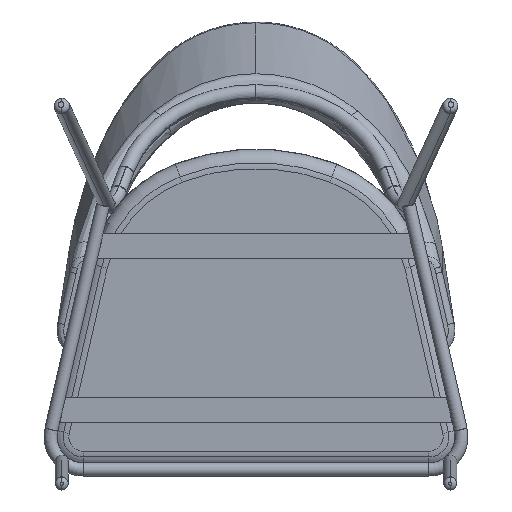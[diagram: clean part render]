
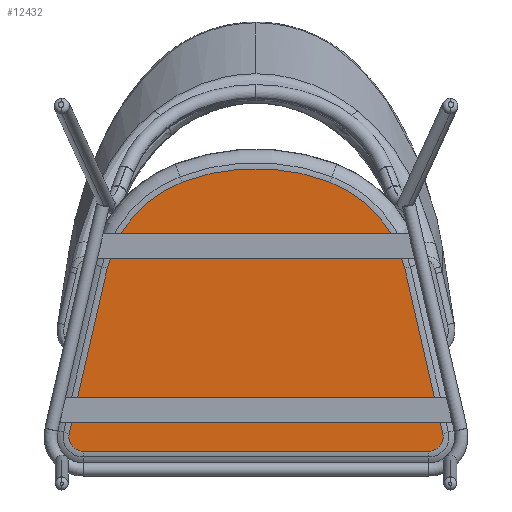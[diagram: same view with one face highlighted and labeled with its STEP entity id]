
A CAD part, front view. The second image highlights one B-rep face of the part: STEP entity #12432.
In plain terms, the highlighted planar face has unit normal (0, -0.999, -0.052).
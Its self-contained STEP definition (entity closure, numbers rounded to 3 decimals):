
#155 = VERTEX_POINT ( 'NONE', #10109 ) ;
#210 = ORIENTED_EDGE ( 'NONE', *, *, #17672, .T. ) ;
#244 = LINE ( 'NONE', #1664, #7227 ) ;
#280 = EDGE_LOOP ( 'NONE', ( #5367, #10526, #1772, #10880, #210, #4541, #10856, #11130 ) ) ;
#885 = CIRCLE ( 'NONE', #8196, 17.639 ) ;
#943 = CARTESIAN_POINT ( 'NONE',  ( 210.568, 408.83, -189. ) ) ;
#1664 = CARTESIAN_POINT ( 'NONE',  ( 227.76, 407.7, -167.441 ) ) ;
#1772 = ORIENTED_EDGE ( 'NONE', *, *, #16104, .T. ) ;
#2071 = DIRECTION ( 'NONE',  ( 0., -0.052, 0.999 ) ) ;
#2214 = CARTESIAN_POINT ( 'NONE',  ( -181.315, 397.117, 34.488 ) ) ;
#2665 = EDGE_CURVE ( 'NONE', #11245, #18599, #4494, .T. ) ;
#2813 = DIRECTION ( 'NONE',  ( 0., -0.999, -0.052 ) ) ;
#2814 = DIRECTION ( 'NONE',  ( 0., -0.052, 0.999 ) ) ;
#2991 = DIRECTION ( 'NONE',  ( 0., -0.999, -0.052 ) ) ;
#3045 = DIRECTION ( 'NONE',  ( 0., -0.999, -0.052 ) ) ;
#3296 = VECTOR ( 'NONE', #7452, 1000. ) ;
#3628 = VECTOR ( 'NONE', #5470, 1000. ) ;
#4083 = CARTESIAN_POINT ( 'NONE',  ( 0., 403.981, -96.488 ) ) ;
#4125 = DIRECTION ( 'NONE',  ( 0., -0.052, 0.999 ) ) ;
#4462 = VERTEX_POINT ( 'NONE', #17905 ) ;
#4494 = CIRCLE ( 'NONE', #17868, 147.639 ) ;
#4509 = AXIS2_PLACEMENT_3D ( 'NONE', #9160, #18108, #16688 ) ;
#4541 = ORIENTED_EDGE ( 'NONE', *, *, #18158, .T. ) ;
#4611 = CARTESIAN_POINT ( 'NONE',  ( -206.655, 402.891, -75.684 ) ) ;
#5097 = CARTESIAN_POINT ( 'NONE',  ( 210.568, 407.907, -171.385 ) ) ;
#5367 = ORIENTED_EDGE ( 'NONE', *, *, #9810, .T. ) ;
#5470 = DIRECTION ( 'NONE',  ( 1., 0., 0. ) ) ;
#6019 = CIRCLE ( 'NONE', #13337, 252.639 ) ;
#6485 = FACE_OUTER_BOUND ( 'NONE', #280, .T. ) ;
#6954 = CIRCLE ( 'NONE', #8161, 147.639 ) ;
#7033 = CARTESIAN_POINT ( 'NONE',  ( -210.568, 407.907, -171.385 ) ) ;
#7227 = VECTOR ( 'NONE', #10492, 1000. ) ;
#7452 = DIRECTION ( 'NONE',  ( -0.224, 0.051, -0.973 ) ) ;
#8161 = AXIS2_PLACEMENT_3D ( 'NONE', #18690, #2991, #2814 ) ;
#8196 = AXIS2_PLACEMENT_3D ( 'NONE', #5097, #12058, #2071 ) ;
#9160 = CARTESIAN_POINT ( 'NONE',  ( 210.568, 407.907, -171.385 ) ) ;
#9810 = EDGE_CURVE ( 'NONE', #11014, #4462, #16655, .T. ) ;
#10109 = CARTESIAN_POINT ( 'NONE',  ( 181.315, 397.117, 34.488 ) ) ;
#10492 = DIRECTION ( 'NONE',  ( -0.224, -0.051, 0.973 ) ) ;
#10526 = ORIENTED_EDGE ( 'NONE', *, *, #13593, .T. ) ;
#10856 = ORIENTED_EDGE ( 'NONE', *, *, #2665, .T. ) ;
#10880 = ORIENTED_EDGE ( 'NONE', *, *, #12085, .T. ) ;
#11014 = VERTEX_POINT ( 'NONE', #15887 ) ;
#11130 = ORIENTED_EDGE ( 'NONE', *, *, #16731, .T. ) ;
#11245 = VERTEX_POINT ( 'NONE', #12754 ) ;
#12058 = DIRECTION ( 'NONE',  ( 0., -0.999, -0.052 ) ) ;
#12085 = EDGE_CURVE ( 'NONE', #12153, #155, #244, .T. ) ;
#12153 = VERTEX_POINT ( 'NONE', #12504 ) ;
#12311 = PLANE ( 'NONE',  #4509 ) ;
#12432 = ADVANCED_FACE ( 'NONE', ( #6485 ), #12311, .F. ) ;
#12504 = CARTESIAN_POINT ( 'NONE',  ( 227.76, 407.7, -167.441 ) ) ;
#12754 = CARTESIAN_POINT ( 'NONE',  ( -90.043, 391.628, 139.237 ) ) ;
#12860 = DIRECTION ( 'NONE',  ( 0., -0.999, -0.052 ) ) ;
#12993 = LINE ( 'NONE', #4611, #3296 ) ;
#13317 = VERTEX_POINT ( 'NONE', #17997 ) ;
#13337 = AXIS2_PLACEMENT_3D ( 'NONE', #4083, #3045, #16075 ) ;
#13593 = EDGE_CURVE ( 'NONE', #4462, #15606, #15575, .T. ) ;
#14235 = CARTESIAN_POINT ( 'NONE',  ( -37.423, 398.847, 1.483 ) ) ;
#14821 = AXIS2_PLACEMENT_3D ( 'NONE', #7033, #12860, #15818 ) ;
#15575 = LINE ( 'NONE', #16898, #3628 ) ;
#15606 = VERTEX_POINT ( 'NONE', #943 ) ;
#15818 = DIRECTION ( 'NONE',  ( 0., -0.052, 0.999 ) ) ;
#15887 = CARTESIAN_POINT ( 'NONE',  ( -227.76, 407.7, -167.441 ) ) ;
#16075 = DIRECTION ( 'NONE',  ( 0., -0.052, 0.999 ) ) ;
#16104 = EDGE_CURVE ( 'NONE', #15606, #12153, #885, .T. ) ;
#16655 = CIRCLE ( 'NONE', #14821, 17.639 ) ;
#16688 = DIRECTION ( 'NONE',  ( 0., -0.052, 0.999 ) ) ;
#16731 = EDGE_CURVE ( 'NONE', #18599, #11014, #12993, .T. ) ;
#16898 = CARTESIAN_POINT ( 'NONE',  ( 210.568, 408.83, -189. ) ) ;
#17672 = EDGE_CURVE ( 'NONE', #155, #13317, #6954, .T. ) ;
#17868 = AXIS2_PLACEMENT_3D ( 'NONE', #14235, #2813, #4125 ) ;
#17905 = CARTESIAN_POINT ( 'NONE',  ( -210.568, 408.83, -189. ) ) ;
#17997 = CARTESIAN_POINT ( 'NONE',  ( 90.043, 391.628, 139.237 ) ) ;
#18108 = DIRECTION ( 'NONE',  ( 0., 0.999, 0.052 ) ) ;
#18158 = EDGE_CURVE ( 'NONE', #13317, #11245, #6019, .T. ) ;
#18599 = VERTEX_POINT ( 'NONE', #2214 ) ;
#18690 = CARTESIAN_POINT ( 'NONE',  ( 37.423, 398.847, 1.483 ) ) ;
